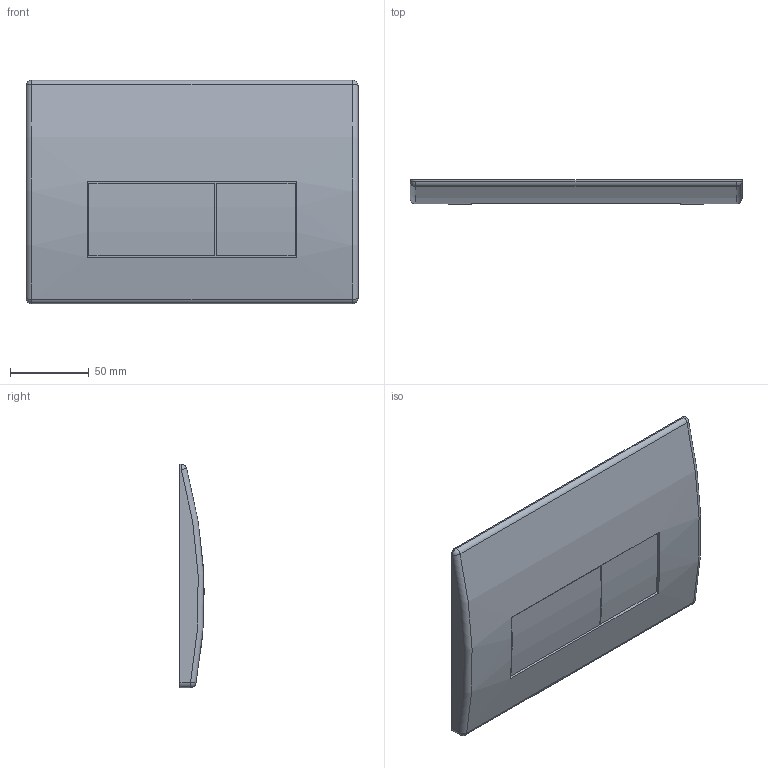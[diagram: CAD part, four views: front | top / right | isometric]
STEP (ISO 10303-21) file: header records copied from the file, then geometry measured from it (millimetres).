
FILE_DESCRIPTION(/* description */ (''),/* implementation_level */ '2;1');
FILE_NAME(/* name */ 'C:\Planerdaten\Export PLA\115.258.00.1\stp\115260.stp',/* time_stamp */ '2022-03-22T15:29:26+01:00',/* author */ ('JANAN'),/* organization */ (''),/* preprocessor_version */ 'ST-DEVELOPER v16.13',/* originating_system */ 'Autodesk Inventor 2018',/* authorisation */ '');
FILE_SCHEMA (('AUTOMOTIVE_DESIGN { 1 0 10303 214 3 1 1 }'));
Length unit declared in the file: millimetre
Products named in the file (1): tmpA445.tmp
Bounding box: 211 x 15.36 x 142 mm (x, y, z)
Volume: 365175 mm3; surface area: 81381 mm2
Topology: 3 solids, 3 shells, 35 faces, 72 edges, 44 vertices
Faces by surface type: plane 20, cylinder 9, sphere 4, torus 2
Entity records: 988 total; most frequent: DIRECTION 170, CARTESIAN_POINT 152, ORIENTED_EDGE 144, EDGE_CURVE 72, AXIS2_PLACEMENT_3D 62, LINE 46, VECTOR 46, VERTEX_POINT 44
